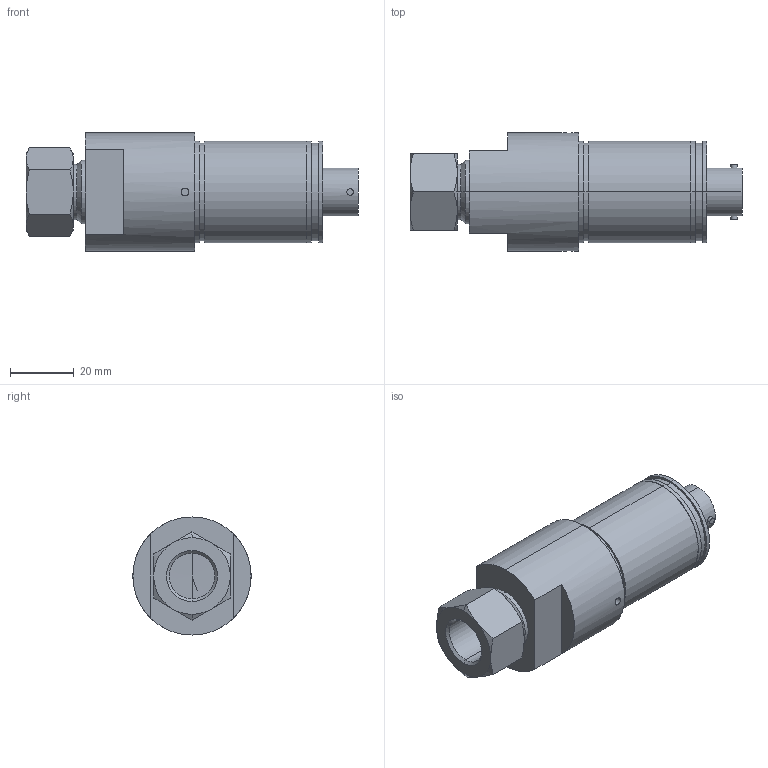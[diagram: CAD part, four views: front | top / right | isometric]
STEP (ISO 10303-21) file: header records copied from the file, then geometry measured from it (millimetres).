
FILE_DESCRIPTION(('STEP AP203'),'1');
FILE_NAME('C:/TPO v2/SharedFS/Outgoing/burster_8221-6003_c80j7z8jzes6f3zuwb3mzybn5.stp','2013-08-27T13:33:41',('TraceParts'),('TraceParts S.A.'),'XStep 1.0',' ',' ');
FILE_SCHEMA(('CONFIG_CONTROL_DESIGN'));
Length unit declared in the file: millimetre
Products named in the file (1): 1
Bounding box: 104 x 37 x 37 mm (x, y, z)
Volume: 74671.4 mm3; surface area: 13303.4 mm2
Topology: 1 solids, 1 shells, 81 faces, 174 edges, 109 vertices
Faces by surface type: cylinder 32, plane 27, cone 22
Entity records: 2374 total; most frequent: CARTESIAN_POINT 599, DIRECTION 380, ORIENTED_EDGE 344, EDGE_CURVE 172, AXIS2_PLACEMENT_3D 162, VERTEX_POINT 109, EDGE_LOOP 97, ADVANCED_FACE 81
